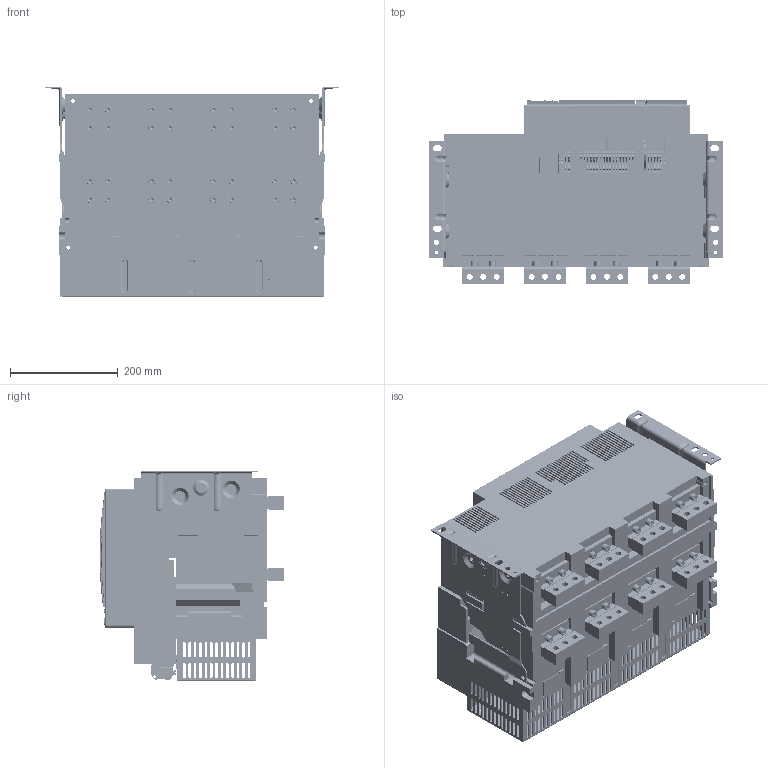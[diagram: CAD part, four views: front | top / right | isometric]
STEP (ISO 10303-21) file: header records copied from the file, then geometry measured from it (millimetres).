
FILE_DESCRIPTION(/* description */ (''),/* implementation_level */ '2;1');
FILE_NAME(/* name */ 'C:/Users/carlos.gonzalez/Documents/ADRIAN_TEMP_DRAWING/Ex9A32_4P_2500_F_PB_Drawing.step',/* time_stamp */ '2021-10-14T12:54:01+02:00',/* author */ (''),/* organization */ (''),/* preprocessor_version */ 'ST-DEVELOPER v18.1',/* originating_system */ 'Autodesk Translation Framework v10.10.0.1391',/* authorisation */ '');
FILE_SCHEMA (('AUTOMOTIVE_DESIGN { 1 0 10303 214 3 1 1 }'));
Products named in the file (40): Ex9A32_4P_2500_F; Auxiliary terminals; JIEXIANDUANZI-35_ASM; 8260A0306112; 3044526_UT25_TWIN_BU; 0800886_E-NS-35-N; 081808_UC_TM_2_5; Main terminals; GBT93-8; GBT70_1-M8X20; 8580A0412008; Smart unit; 8320A0101004; 5043A0101001; 8005A0101008; 8860A1424009; Cover; 5300A1526114_ASM; 8300A0101127_34; 8235A0101009_2; 8253A0101002_7; 8320A0101121-0814_3; 8860A0724001_4; 8ZTD_282_1203_AF1_6; 8ZTD_282_1203_AF2_6; 8253A0101107-1_5; 8253A0101106-1_5; 8860A1424194-1_1; 8282A0820014; 8253A0101010; 8253A0101108-1; Internal parts; 4000-JIZUO-4P; 8060A0306109; 8300A0101130-; 8060A0306108; 8300A0306008; 4000-DIBAN-4P; 8ZTD_123_166_2; 8ZTD_123_167_2
Assembly tree (210 placements, depth 4):
  Ex9A32_4P_2500_F
    Auxiliary terminals
      JIEXIANDUANZI-35_ASM
        8260A0306112
        3044526_UT25_TWIN_BU  x35
        0800886_E-NS-35-N  x2
        081808_UC_TM_2_5  x68
    Main terminals
      GBT70_1-M8X20  x32
      GBT93-8  x32
      8580A0412008  x8
    Smart unit
      8320A0101004
      5043A0101001
      8005A0101008
      8860A1424009
    Cover
      5300A1526114_ASM
        8300A0101127_34
        8235A0101009_2
        8253A0101002_7
        8320A0101121-0814_3
        8860A0724001_4
        8ZTD_282_1203_AF1_6
        8ZTD_282_1203_AF2_6
        8253A0101107-1_5
        8253A0101106-1_5
        8860A1424194-1_1
        8282A0820014
      8253A0101010
      8253A0101108-1
    Internal parts
      4000-JIZUO-4P
      8060A0306109
      8300A0101130-
      8060A0306108
      8300A0306008
      4000-DIBAN-4P
      8ZTD_123_166_2
      8ZTD_123_167_2
Bounding box: 545 x 343.49 x 392 mm (x, y, z)
Volume: 25461707.6 mm3; surface area: 3009584 mm2
Topology: 203 solids, 259 shells, 12242 faces, 33333 edges, 21745 vertices
Faces by surface type: plane 7523, cylinder 3668, bspline 390, cone 351, torus 238, sphere 72
Full cylindrical faces by diameter (mm): 2 x7, 2.1 x2, 2.5 x3, 2.6 x2, 3 x11, 3.5 x11, 4 x12, 4.2 x4, 4.3 x1, 4.5 x3, 5 x16, 5.008 x1, 6 x9, 6.1 x1, 6.5 x3, 6.647 x32, 7 x8, 8 x36, 8.2 x8, 8.3 x2, 8.5 x32, 9 x2, 10 x6, 11 x24, 12 x8, 12.5 x1, 13 x32, 14 x1, 15 x1, 16 x1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
Entity records: 216295 total; most frequent: CARTESIAN_POINT 84458, ORIENTED_EDGE 27684, DIRECTION 25777, EDGE_CURVE 13856, LINE 9573, VECTOR 9573, VERTEX_POINT 9007, AXIS2_PLACEMENT_3D 8102
